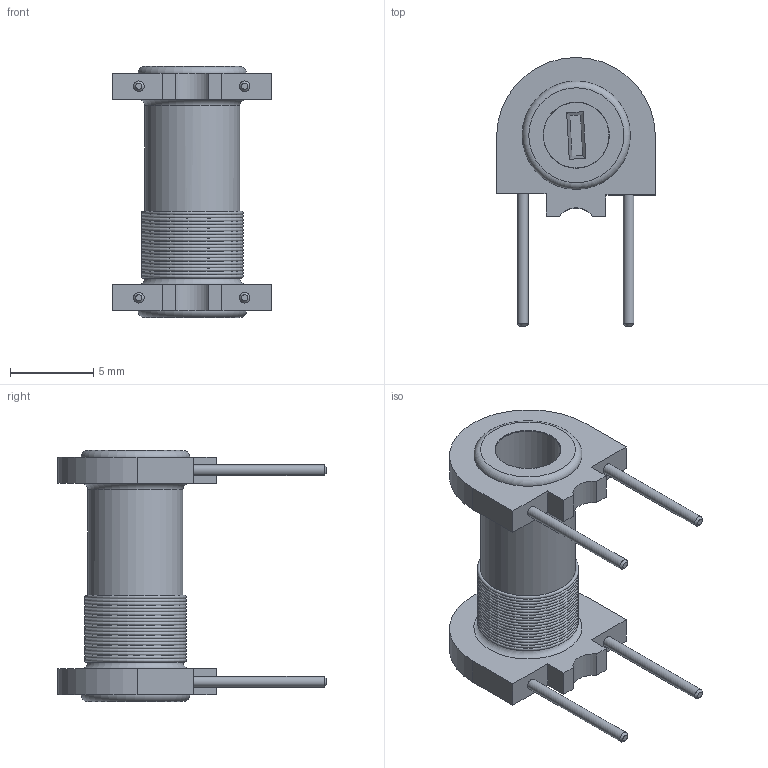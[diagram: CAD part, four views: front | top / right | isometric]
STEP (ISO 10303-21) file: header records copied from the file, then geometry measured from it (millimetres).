
FILE_DESCRIPTION(/* description */ (''),/* implementation_level */ '2;1');
FILE_NAME(/* name */ '\\Snap1\dwgs\Customer 3D Models\556\556-7120.stp',/* time_stamp */ '2016-12-23T08:46:12+00:00',/* author */ ('paulk'),/* organization */ (''),/* preprocessor_version */ 'ST-DEVELOPER v15.2',/* originating_system */ 'Autodesk Inventor 2014',/* authorisation */ '');
FILE_SCHEMA (('CONFIG_CONTROL_DESIGN'));
Length unit declared in the file: millimetre
Products named in the file (1): 556-7120_Shrinkwrap_1
Bounding box: 9.53 x 16.13 x 15.07 mm (x, y, z)
Surface area: 1028.6 mm2 (no closed solid volume)
Topology: 0 solids, 79 shells, 144 faces, 281 edges, 153 vertices
Faces by surface type: torus 62, plane 40, cylinder 34, cone 8
Full cylindrical faces by diameter (mm): 0.635 x4, 0.759 x1, 0.764 x1, 4 x1, 4.04 x1, 4.14 x1, 5.7 x21
Entity records: 3081 total; most frequent: DIRECTION 526, CARTESIAN_POINT 429, ORIENTED_EDGE 390, EDGE_LOOP 258, AXIS2_PLACEMENT_3D 225, EDGE_CURVE 156, ADVANCED_FACE 144, FACE_OUTER_BOUND 136
